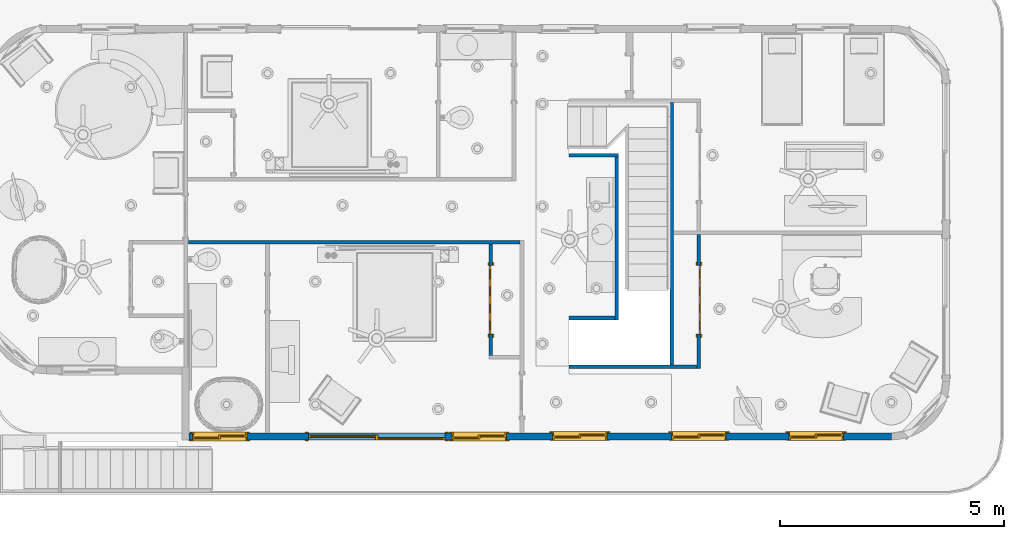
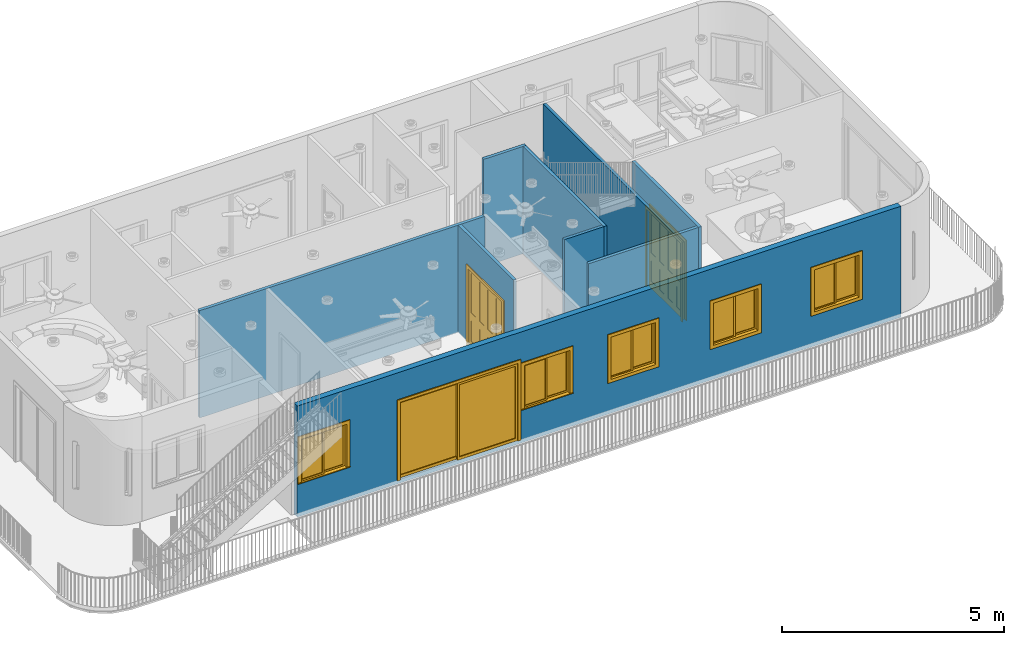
# One storey, part 4 of 28: 9 walls, 5 windows, 3 doors, 8 openings.
"""IFC2X3 building model written with IfcOpenShell, lengths in feet."""

from ifc_helpers import new_model, entity, si_unit, converted_unit, derived_unit, direction, frame, frame_2d, origin, origin_2d_with_axis, place, context, subcontext, project, spatial, polyline, rectangle, outline, extrude, source, transform, mapped, material, material_list, layer, layer_set, layer_usage, type_object, type_shapes, element, fill, save


model = new_model("IFC2X3")

# Units and contexts
model_context = context("Model", 3, precision=0.0001, world=origin(), true_north=direction((6.12303176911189e-17, 1.0)))
body_context = subcontext(model_context, "Body", "Model", "MODEL_VIEW")
ifc_project = project(units=[converted_unit("LENGTHUNIT", "FOOT", entity("IfcRatioMeasure", 0.3048), si_unit("LENGTHUNIT", "METRE"), dimensions=[1, 0, 0, 0, 0, 0, 0]), converted_unit("AREAUNIT", "SQUARE FOOT", entity("IfcRatioMeasure", 0.09290304), si_unit("AREAUNIT", "SQUARE_METRE"), dimensions=[2, 0, 0, 0, 0, 0, 0]), converted_unit("VOLUMEUNIT", "CUBIC FOOT", entity("IfcRatioMeasure", 0.028316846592), si_unit("VOLUMEUNIT", "CUBIC_METRE"), dimensions=[3, 0, 0, 0, 0, 0, 0]), converted_unit("PLANEANGLEUNIT", "DEGREE", entity("IfcRatioMeasure", 0.0174532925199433), si_unit("PLANEANGLEUNIT", "RADIAN"), dimensions=[0, 0, 0, 0, 0, 0, 0]), si_unit("MASSUNIT", "GRAM", prefix="KILO"), derived_unit("MASSDENSITYUNIT", [(si_unit("MASSUNIT", "GRAM", prefix="KILO"), 1), (si_unit("LENGTHUNIT", "METRE"), -3)]), si_unit("TIMEUNIT", "SECOND"), si_unit("FREQUENCYUNIT", "HERTZ"), si_unit("THERMODYNAMICTEMPERATUREUNIT", "DEGREE_CELSIUS"), derived_unit("THERMALTRANSMITTANCEUNIT", [(si_unit("MASSUNIT", "GRAM", prefix="KILO"), 1), (si_unit("THERMODYNAMICTEMPERATUREUNIT", "KELVIN"), -1), (si_unit("TIMEUNIT", "SECOND"), -3)]), derived_unit("VOLUMETRICFLOWRATEUNIT", [(si_unit("LENGTHUNIT", "METRE"), 3), (si_unit("TIMEUNIT", "SECOND"), -1)]), si_unit("ELECTRICCURRENTUNIT", "AMPERE"), si_unit("ELECTRICVOLTAGEUNIT", "VOLT"), si_unit("POWERUNIT", "WATT"), si_unit("FORCEUNIT", "NEWTON"), si_unit("ILLUMINANCEUNIT", "LUX"), si_unit("LUMINOUSFLUXUNIT", "LUMEN"), si_unit("LUMINOUSINTENSITYUNIT", "CANDELA"), derived_unit("USERDEFINED", [(si_unit("MASSUNIT", "GRAM", prefix="KILO"), -1), (si_unit("LENGTHUNIT", "METRE"), -2), (si_unit("TIMEUNIT", "SECOND"), 3), (si_unit("LUMINOUSFLUXUNIT", "LUMEN"), 1)]), derived_unit("LINEARVELOCITYUNIT", [(si_unit("LENGTHUNIT", "METRE"), 1), (si_unit("TIMEUNIT", "SECOND"), -1)]), si_unit("PRESSUREUNIT", "PASCAL"), derived_unit("USERDEFINED", [(si_unit("LENGTHUNIT", "METRE"), -2), (si_unit("MASSUNIT", "GRAM", prefix="KILO"), 1), (si_unit("TIMEUNIT", "SECOND"), -2)])], contexts=[model_context])

# Site, building, storey
site_placement = place(None, origin())
site = spatial("IfcSite", under=ifc_project, at=site_placement, Name="表面", CompositionType="ELEMENT")
building_placement = place(site_placement, origin())
building = spatial("IfcBuilding", under=site, at=building_placement, CompositionType="ELEMENT")
storey_placement = place(building_placement, frame((0.0, 0.0, 10.0)))
storey = spatial("IfcBuildingStorey", under=building, at=storey_placement, Name="Level 2", CompositionType="ELEMENT", Elevation=9.99999999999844)

# Wall, openings, door, windows
ifc_material_1 = material(Name="Paint")
ifc_layer_1 = layer(ifc_material_1, 0.333333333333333)
ifc_material_2 = material(Name="Paints and Coatings")
ifc_layer_2 = layer(ifc_material_2, 0.166666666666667)
ifc_layer_set_1 = layer_set([ifc_layer_1, ifc_layer_2], Name="基本墙:Generic - 4\" Brick")
ifc_layer_usage_1 = layer_usage(ifc_layer_set_1, "AXIS2", "NEGATIVE", 0.25)
wall_type_1 = type_object("IfcWallType", Name="基本墙:Generic - 4\" Brick", PredefinedType="STANDARD", material=ifc_layer_set_1)
wall_1_placement = place(storey_placement, frame((31.7984202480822, -13.1509396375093, 0.0), z_axis=(0.0, 0.0, 1.0), x_axis=(-1.0, 0.0, 0.0)))
wall_1 = element("IfcWallStandardCase", 1, at=wall_1_placement, inside=storey, type_object=wall_type_1, material=ifc_layer_usage_1, Name="基本墙:Generic - 4\" Brick", ObjectType="基本墙:Generic - 4\" Brick:257", context=body_context, shape_type="SweptSolid", body=[
    extrude(rectangle(XDim=51.4166666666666, YDim=0.5, at=frame_2d((25.7083333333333, -6.38378239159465e-16), x_axis=(-1.0, 0.0))), origin(), (0.0, 0.0, 1.0), 9.99999999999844),
])
opening_1_placement = place(wall_1_placement, frame((32.6666666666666, -0.250000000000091, 0.333333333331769)))
opening_1 = element("IfcOpeningElement", 2, at=opening_1_placement, cuts=wall_1, Name="Sliding-2 panel:72\" x 84\":1", ObjectType="Opening", context=body_context, shape_type="SweptSolid", body=[
    extrude(rectangle(XDim=7.0, YDim=10.0, at=frame_2d((3.5, 5.0), x_axis=(-1.0, 0.0))), frame((0.0, 0.0, 0.0), z_axis=(0.0, 1.0, 0.0), x_axis=(0.0, 0.0, 1.0)), (0.0, 0.0, 1.0), 0.5),
])
opening_2_placement = place(wall_1_placement, frame((7.5, 0.249999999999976, 3.0)))
opening_2 = element("IfcOpeningElement", 3, at=opening_2_placement, cuts=wall_1, Name="Slider with Trim:48\" x 48\":1", ObjectType="Opening", context=body_context, shape_type="SweptSolid", body=[
    extrude(rectangle(XDim=3.99999999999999, YDim=3.99999999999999, at=frame_2d((2.0, 2.0), x_axis=(-1.0, 0.0))), frame((0.0, 0.0, 0.0), z_axis=(0.0, -1.0, 0.0), x_axis=(0.0, 0.0, 1.0)), (0.0, 0.0, 1.0), 0.5),
])
opening_3_placement = place(wall_1_placement, frame((16.0833333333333, 0.249999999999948, 3.0)))
opening_3 = element("IfcOpeningElement", 4, at=opening_3_placement, cuts=wall_1, Name="Slider with Trim:48\" x 48\":1", ObjectType="Opening", context=body_context, shape_type="SweptSolid", body=[
    extrude(rectangle(XDim=3.99999999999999, YDim=3.99999999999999, at=frame_2d((2.0, 2.0), x_axis=(-1.0, 0.0))), frame((0.0, 0.0, 0.0), z_axis=(0.0, -1.0, 0.0), x_axis=(0.0, 0.0, 1.0)), (0.0, 0.0, 1.0), 0.5),
])
opening_4_placement = place(wall_1_placement, frame((28.1666666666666, -0.250000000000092, 3.0)))
opening_4 = element("IfcOpeningElement", 5, at=opening_4_placement, cuts=wall_1, Name="Slider with Trim:48\" x 48\":1", ObjectType="Opening", context=body_context, shape_type="SweptSolid", body=[
    extrude(rectangle(XDim=3.99999999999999, YDim=3.99999999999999, at=frame_2d((2.0, 2.0), x_axis=(-1.0, 0.0))), frame((0.0, 0.0, 0.0), z_axis=(0.0, 1.0, 0.0), x_axis=(0.0, 0.0, 1.0)), (0.0, 0.0, 1.0), 0.5),
])
opening_5_placement = place(wall_1_placement, frame((47.1666666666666, -0.250000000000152, 3.0)))
opening_5 = element("IfcOpeningElement", 6, at=opening_5_placement, cuts=wall_1, Name="Slider with Trim:48\" x 48\":1", ObjectType="Opening", context=body_context, shape_type="SweptSolid", body=[
    extrude(rectangle(XDim=3.99999999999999, YDim=3.99999999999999, at=frame_2d((2.0, 2.0), x_axis=(-1.0, 0.0))), frame((0.0, 0.0, 0.0), z_axis=(0.0, 1.0, 0.0), x_axis=(0.0, 0.0, 1.0)), (0.0, 0.0, 1.0), 0.5),
])
opening_6_placement = place(wall_1_placement, frame((24.8072916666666, 0.24999999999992, 3.0)))
opening_6 = element("IfcOpeningElement", 7, at=opening_6_placement, cuts=wall_1, Name="Slider with Trim:48\" x 48\":1", ObjectType="Opening", context=body_context, shape_type="SweptSolid", body=[
    extrude(rectangle(XDim=3.99999999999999, YDim=3.99999999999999, at=frame_2d((2.0, 2.0), x_axis=(-1.0, 0.0))), frame((0.0, 0.0, 0.0), z_axis=(0.0, -1.0, 0.0), x_axis=(0.0, 0.0, 1.0)), (0.0, 0.0, 1.0), 0.5),
])
ifc_material_3 = material(Name="Glass")
ifc_material_4 = material(Name="Door - Panel")
ifc_material_5 = material(Name="Door - Frame")
ifc_material_list_1 = material_list([ifc_material_3, ifc_material_4, ifc_material_5])
ifc_material_list_2 = material_list([ifc_material_3, ifc_material_4, ifc_material_5])
door_style_1 = type_object("IfcDoorStyle", Name="72\" x 84\"", ConstructionType="NOTDEFINED", OperationType="NOTDEFINED", ParameterTakesPrecedence=False, Sizeable=False, material=ifc_material_list_2)
shared_shape_1 = source(origin(), body_context, "Body", "SweptSolid", [
    extrude(rectangle(XDim=0.0208333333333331, YDim=4.74999999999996, at=frame_2d((5.55111512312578e-17, 0.0), x_axis=(1.0, 0.0))), frame((7.45833333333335, 0.250000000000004, 0.249999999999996), z_axis=(0.0, 0.0, 1.0), x_axis=(0.0, -1.0, 0.0)), (0.0, 0.0, 1.0), 6.5),
    extrude(outline(polyline([(-2.54166666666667, -3.5), (2.54166666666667, -3.5), (2.54166666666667, 3.5), (-2.54166666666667, 3.5), (-2.54166666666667, -3.5)]), holes=[polyline([(-2.375, -3.25), (-2.375, 3.25), (2.375, 3.25), (2.375, -3.25), (-2.375, -3.25)])]), frame((7.45833333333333, 0.166666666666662, 3.5), z_axis=(0.0, 1.0, 0.0), x_axis=(1.0, 0.0, 0.0)), (0.0, 0.0, 1.0), 0.166666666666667),
    extrude(rectangle(XDim=0.0208333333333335, YDim=4.75000000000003, at=frame_2d((0.0, -4.44089209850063e-16), x_axis=(1.0, 0.0))), frame((2.54166666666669, 0.416666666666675, 0.249999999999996), z_axis=(0.0, 0.0, 1.0), x_axis=(0.0, -1.0, 0.0)), (0.0, 0.0, 1.0), 6.5),
    extrude(outline(polyline([(-3.5, -2.54166666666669), (3.5, -2.54166666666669), (3.5, 2.54166666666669), (-3.5, 2.54166666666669), (-3.5, -2.54166666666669)]), holes=[polyline([(-3.25, -2.37500000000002), (-3.25, 2.37500000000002), (3.25, 2.37500000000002), (3.25, -2.37500000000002), (-3.25, -2.37500000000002)])]), frame((2.54166666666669, 0.333333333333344, 3.5), z_axis=(0.0, 1.0, 0.0), x_axis=(0.0, 0.0, -1.0)), (0.0, 0.0, 1.0), 0.166666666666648),
    extrude(outline(polyline([(-3.5625, -5.25), (3.6875, -5.25), (3.6875, 5.25), (-3.5625, 5.25), (-3.5625, 5.0), (3.4375, 5.0), (3.4375, -5.0), (-3.5625, -5.0), (-3.5625, -5.25)])), frame((5.0, -0.0833333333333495, 3.5625), z_axis=(0.0, 1.0, 0.0), x_axis=(0.0, 0.0, 1.0)), (0.0, 0.0, 1.0), 0.0833333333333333),
    extrude(outline(polyline([(-5.24999999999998, -3.56250000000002), (-5.0, -3.56250000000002), (-5.0, 3.43749999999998), (5.0, 3.43750000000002), (5.0, -3.56249999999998), (5.25000000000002, -3.56249999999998), (5.24999999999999, 3.68750000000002), (-5.25000000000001, 3.68749999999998), (-5.24999999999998, -3.56250000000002)])), frame((5.0, 0.499999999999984, 3.5625), z_axis=(0.0, 1.0, 0.0), x_axis=(-1.0, 0.0, 0.0)), (0.0, 0.0, 1.0), 0.0833333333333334),
])
type_shapes(door_style_1, [shared_shape_1])
door_1_placement = place(opening_1_placement, origin())
door_1 = element("IfcDoor", 8, at=door_1_placement, inside=storey, type_object=door_style_1, material=ifc_material_list_1, Name="Sliding-2 panel:72\" x 84\"", ObjectType="72\" x 84\"", OverallHeight=7.0, OverallWidth=10.0, context=body_context, shape_type="MappedRepresentation", body=[
    mapped(shared_shape_1, transform((0.0, 0.0, 0.0), scale=1.0)),
])
fill(opening_1, door_1)
ifc_material_6 = material(Name="Sash")
ifc_material_7 = material(Name="Trim")
ifc_material_list_3 = material_list([ifc_material_3, ifc_material_6, ifc_material_7])
ifc_material_list_4 = material_list([ifc_material_3, ifc_material_6, ifc_material_7])
window_style = type_object("IfcWindowStyle", Name="48\" x 48\"", ConstructionType="NOTDEFINED", OperationType="NOTDEFINED", ParameterTakesPrecedence=False, Sizeable=False, material=ifc_material_list_4)
shared_shape_2 = source(origin(), body_context, "Body", "SweptSolid", [
    extrude(rectangle(XDim=0.0416666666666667, YDim=1.71875000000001, at=origin_2d_with_axis()), frame((1.06770833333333, 0.21875, 0.208333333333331), z_axis=(0.0, 0.0, 1.0), x_axis=(0.0, -1.0, 0.0)), (0.0, 0.0, 1.0), 3.58333333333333),
    extrude(outline(polyline([(-1.00520833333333, -1.9375), (1.00520833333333, -1.9375), (1.00520833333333, 1.9375), (-1.00520833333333, 1.9375), (-1.00520833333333, -1.9375)]), holes=[polyline([(-0.859374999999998, -1.79166666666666), (-0.859374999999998, 1.79166666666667), (0.859374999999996, 1.79166666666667), (0.859374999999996, -1.79166666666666), (-0.859374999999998, -1.79166666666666)])]), frame((1.06770833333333, 0.145833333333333, 2.0), z_axis=(0.0, 1.0, 0.0), x_axis=(1.0, 0.0, 0.0)), (0.0, 0.0, 1.0), 0.145833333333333),
    extrude(rectangle(XDim=0.104166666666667, YDim=4.45833333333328, at=frame_2d((-2.77555756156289e-17, 0.0), x_axis=(1.0, 0.0))), frame((2.0, 0.552083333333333, 0.0), z_axis=(0.0, 0.0, 1.0), x_axis=(0.0, -1.0, 0.0)), (0.0, 0.0, 1.0), 0.0624999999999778),
    extrude(outline(polyline([(-1.86458333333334, 1.9375), (2.01041666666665, 1.9375), (2.01041666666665, 2.22916666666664), (-2.15624999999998, 2.22916666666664), (-2.15624999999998, -2.22916666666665), (2.01041666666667, -2.22916666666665), (2.01041666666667, -1.93749999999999), (-1.86458333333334, -1.93749999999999), (-1.86458333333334, 1.9375)])), frame((2.0, 0.5, 2.07291666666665), z_axis=(0.0, 1.0, 0.0), x_axis=(0.0, 0.0, -1.0)), (0.0, 0.0, 1.0), 0.0625),
    extrude(outline(polyline([(-2.18749999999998, -2.18749999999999), (2.18749999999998, -2.18749999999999), (2.18749999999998, 2.18749999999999), (-2.18749999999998, 2.18749999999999), (-2.18749999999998, -2.18749999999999)]), holes=[polyline([(-1.89583333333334, -1.89583333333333), (-1.89583333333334, 1.89583333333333), (1.89583333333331, 1.89583333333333), (1.89583333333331, -1.89583333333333), (-1.89583333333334, -1.89583333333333)])]), frame((2.0, -0.0625, 2.0), z_axis=(0.0, 1.0, 0.0), x_axis=(0.0, 0.0, -1.0)), (0.0, 0.0, 1.0), 0.0625),
    extrude(rectangle(XDim=0.0416666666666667, YDim=1.71874999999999, at=frame_2d((1.38777878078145e-17, 0.0), x_axis=(1.0, 0.0))), frame((2.93229166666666, 0.364583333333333, 0.208333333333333), z_axis=(0.0, 0.0, 1.0), x_axis=(0.0, 1.0, 0.0)), (0.0, 0.0, 1.0), 3.58333333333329),
    extrude(outline(polyline([(-1.00520833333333, -1.93749999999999), (1.00520833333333, -1.93749999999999), (1.00520833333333, 1.93749999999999), (-1.00520833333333, 1.93749999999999), (-1.00520833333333, -1.93749999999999)]), holes=[polyline([(-0.859374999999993, -1.79166666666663), (-0.859374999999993, 1.79166666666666), (0.859374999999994, 1.79166666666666), (0.859374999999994, -1.79166666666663), (-0.859374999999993, -1.79166666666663)])]), frame((2.93229166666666, 0.291666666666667, 2.0), z_axis=(0.0, 1.0, 0.0), x_axis=(1.0, 0.0, 0.0)), (0.0, 0.0, 1.0), 0.145833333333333),
    extrude(outline(polyline([(-2.0, -2.0), (2.0, -2.0), (2.0, 2.0), (-2.0, 2.0), (-2.0, -2.0)]), holes=[polyline([(-1.89583333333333, -1.89583333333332), (-1.89583333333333, 1.89583333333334), (1.89583333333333, 1.89583333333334), (1.89583333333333, -1.89583333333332), (-1.89583333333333, -1.89583333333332)])]), frame((2.0, 0.0, 2.0), z_axis=(0.0, 1.0, 0.0), x_axis=(1.0, 0.0, 0.0)), (0.0, 0.0, 1.0), 0.145833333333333),
    extrude(outline(polyline([(-2.0, -2.0), (2.0, -2.0), (2.0, 2.0), (-2.0, 2.0), (-2.0, -2.0)]), holes=[polyline([(-1.9375, -1.93749999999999), (-1.9375, 1.9375), (1.9375, 1.9375), (1.9375, -1.93749999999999), (-1.9375, -1.93749999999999)])]), frame((2.0, 0.145833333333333, 2.0), z_axis=(0.0, 1.0, 0.0), x_axis=(0.0, 0.0, -1.0)), (0.0, 0.0, 1.0), 0.354166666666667),
])
type_shapes(window_style, [shared_shape_2])
window_1_placement = place(opening_2_placement, frame((0.0, 0.0, 0.0), z_axis=(0.0, 0.0, 1.0), x_axis=(-1.0, 0.0, 0.0)))
window_1 = element("IfcWindow", 9, at=window_1_placement, inside=storey, type_object=window_style, material=ifc_material_list_3, Name="Slider with Trim:48\" x 48\"", ObjectType="48\" x 48\"", OverallHeight=3.99999999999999, OverallWidth=3.99999999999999, context=body_context, shape_type="MappedRepresentation", body=[
    mapped(shared_shape_2, transform((0.0, 0.0, 0.0), scale=1.0)),
])
fill(opening_2, window_1)
ifc_material_list_5 = material_list([ifc_material_3, ifc_material_6, ifc_material_7])
window_2_placement = place(opening_3_placement, frame((0.0, 0.0, 0.0), z_axis=(0.0, 0.0, 1.0), x_axis=(-1.0, 0.0, 0.0)))
window_2 = element("IfcWindow", 10, at=window_2_placement, inside=storey, type_object=window_style, material=ifc_material_list_5, Name="Slider with Trim:48\" x 48\"", ObjectType="48\" x 48\"", OverallHeight=3.99999999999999, OverallWidth=3.99999999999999, context=body_context, shape_type="MappedRepresentation", body=[
    mapped(shared_shape_2, transform((0.0, 0.0, 0.0), scale=1.0)),
])
fill(opening_3, window_2)
ifc_material_list_6 = material_list([ifc_material_3, ifc_material_6, ifc_material_7])
window_3_placement = place(opening_4_placement, origin())
window_3 = element("IfcWindow", 11, at=window_3_placement, inside=storey, type_object=window_style, material=ifc_material_list_6, Name="Slider with Trim:48\" x 48\"", ObjectType="48\" x 48\"", OverallHeight=3.99999999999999, OverallWidth=3.99999999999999, context=body_context, shape_type="MappedRepresentation", body=[
    mapped(shared_shape_2, transform((0.0, 0.0, 0.0), scale=1.0)),
])
fill(opening_4, window_3)
ifc_material_list_7 = material_list([ifc_material_3, ifc_material_6, ifc_material_7])
window_4_placement = place(opening_5_placement, origin())
window_4 = element("IfcWindow", 12, at=window_4_placement, inside=storey, type_object=window_style, material=ifc_material_list_7, Name="Slider with Trim:48\" x 48\"", ObjectType="48\" x 48\"", OverallHeight=3.99999999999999, OverallWidth=3.99999999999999, context=body_context, shape_type="MappedRepresentation", body=[
    mapped(shared_shape_2, transform((0.0, 0.0, 0.0), scale=1.0)),
])
fill(opening_5, window_4)
ifc_material_list_8 = material_list([ifc_material_3, ifc_material_6, ifc_material_7])
window_5_placement = place(opening_6_placement, frame((0.0, 0.0, 0.0), z_axis=(0.0, 0.0, 1.0), x_axis=(-1.0, 0.0, 0.0)))
window_5 = element("IfcWindow", 13, at=window_5_placement, inside=storey, type_object=window_style, material=ifc_material_list_8, Name="Slider with Trim:48\" x 48\"", ObjectType="48\" x 48\"", OverallHeight=3.99999999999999, OverallWidth=3.99999999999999, context=body_context, shape_type="MappedRepresentation", body=[
    mapped(shared_shape_2, transform((0.0, 0.0, 0.0), scale=1.0)),
])
fill(opening_6, window_5)

# Wall
ifc_material_8 = material(Name="Gypsum Wall Board")
ifc_layer_3 = layer(ifc_material_8, 0.0416666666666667)
ifc_layer_4 = layer(ifc_material_8, 0.0208333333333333)
ifc_material_9 = material(Name="Metal - Stud Layer")
ifc_layer_5 = layer(ifc_material_9, 0.135416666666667)
ifc_layer_6 = layer(ifc_material_8, 0.0208333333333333)
ifc_layer_7 = layer(ifc_material_8, 0.0416666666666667)
ifc_layer_set_2 = layer_set([ifc_layer_3, ifc_layer_4, ifc_layer_5, ifc_layer_6, ifc_layer_7], Name="基本墙:Interior - 3 1/8\" Partition (1-hr)")
ifc_layer_usage_2 = layer_usage(ifc_layer_set_2, "AXIS2", "NEGATIVE", 0.130208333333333)
wall_type_2 = type_object("IfcWallType", Name="基本墙:Interior - 3 1/8\" Partition (1-hr)", PredefinedType="STANDARD", material=ifc_layer_set_2)
wall_2_placement = place(storey_placement, frame((-19.6547047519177, 1.0521853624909, 0.250000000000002)))
element("IfcWallStandardCase", 14, at=wall_2_placement, inside=storey, type_object=wall_type_2, material=ifc_layer_usage_2, Name="基本墙:Interior - 3 1/8\" Partition (1-hr)", ObjectType="基本墙:Interior - 3 1/8\" Partition (1-hr):258", context=body_context, shape_type="SweptSolid", body=[
    extrude(rectangle(XDim=24.2864583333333, YDim=0.260416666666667, at=frame_2d((12.1432291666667, -8.32667268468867e-17), x_axis=(-1.0, 0.0))), origin(), (0.0, 0.0, 1.0), 9.66666666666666),
])

# Wall, opening, door
ifc_layer_usage_3 = layer_usage(ifc_layer_set_2, "AXIS2", "NEGATIVE", 0.130208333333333)
wall_3_placement = place(storey_placement, frame((2.49112858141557, -7.2342729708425, 0.250000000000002), z_axis=(0.0, 0.0, 1.0), x_axis=(0.0, 1.0, 0.0)))
wall_3 = element("IfcWallStandardCase", 15, at=wall_3_placement, inside=storey, type_object=wall_type_2, material=ifc_layer_usage_3, Name="基本墙:Interior - 3 1/8\" Partition (1-hr)", ObjectType="基本墙:Interior - 3 1/8\" Partition (1-hr):258", context=body_context, shape_type="SweptSolid", body=[
    extrude(rectangle(XDim=8.15625, YDim=0.260416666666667, at=frame_2d((4.078125, -2.08166817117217e-16), x_axis=(-1.0, 0.0))), origin(), (0.0, 0.0, 1.0), 9.66666666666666),
])
opening_7_placement = place(wall_3_placement, frame((1.578125, -0.130208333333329, -0.250000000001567)))
opening_7 = element("IfcOpeningElement", 16, at=opening_7_placement, cuts=wall_3, Name="Bifold-4 Panel:60\" x 84\":1", ObjectType="Opening", context=body_context, shape_type="SweptSolid", body=[
    extrude(rectangle(XDim=7.0, YDim=5.0, at=frame_2d((3.5, 2.5), x_axis=(1.0, 0.0))), frame((0.0, 0.0, 0.0), z_axis=(0.0, 1.0, 0.0), x_axis=(0.0, 0.0, 1.0)), (0.0, 0.0, 1.0), 0.260416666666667),
])
ifc_material_list_9 = material_list([ifc_material_4, ifc_material_5])
ifc_material_list_10 = material_list([ifc_material_4, ifc_material_5])
door_style_2 = type_object("IfcDoorStyle", Name="60\" x 84\"", ConstructionType="NOTDEFINED", OperationType="NOTDEFINED", ParameterTakesPrecedence=False, Sizeable=False, material=ifc_material_list_10)
shared_shape_3 = source(origin(), body_context, "Body", "SweptSolid", [
    extrude(rectangle(XDim=0.0416666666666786, YDim=0.666666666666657, at=frame_2d((6.93889390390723e-18, 0.0), x_axis=(1.0, 0.0))), frame((0.624999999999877, 0.197916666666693, 3.16666666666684), z_axis=(0.0, 0.0, 1.0), x_axis=(0.0, -1.0, 0.0)), (0.0, 0.0, 1.0), 3.56250000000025),
    extrude(rectangle(XDim=0.0416666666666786, YDim=0.666666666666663, at=frame_2d((-6.93889390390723e-18, 0.0), x_axis=(1.0, 0.0))), frame((4.37499999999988, 0.19791666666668, 3.16666666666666), z_axis=(0.0, 0.0, 1.0), x_axis=(0.0, -1.0, 0.0)), (0.0, 0.0, 1.0), 3.56250000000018),
    extrude(rectangle(XDim=0.0416666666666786, YDim=0.666666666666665, at=frame_2d((-6.93889390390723e-18, -1.11022302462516e-16), x_axis=(1.0, 0.0))), frame((4.37499999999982, 0.19791666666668, 0.604166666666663), z_axis=(0.0, 0.0, 1.0), x_axis=(0.0, -1.0, 0.0)), (0.0, 0.0, 1.0), 1.85416666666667),
    extrude(rectangle(XDim=0.0416666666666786, YDim=0.666666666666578, at=frame_2d((-6.93889390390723e-18, 0.0), x_axis=(1.0, 0.0))), frame((3.12499999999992, 0.197916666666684, 3.16666666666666), z_axis=(0.0, 0.0, 1.0), x_axis=(0.0, -1.0, 0.0)), (0.0, 0.0, 1.0), 3.56250000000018),
    extrude(rectangle(XDim=0.0416666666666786, YDim=0.66666666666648, at=frame_2d((-6.93889390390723e-18, 0.0), x_axis=(1.0, 0.0))), frame((3.12499999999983, 0.197916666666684, 0.604166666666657), z_axis=(0.0, 0.0, 1.0), x_axis=(0.0, -1.0, 0.0)), (0.0, 0.0, 1.0), 1.85416666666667),
    extrude(rectangle(XDim=0.0416666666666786, YDim=0.666666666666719, at=frame_2d((-6.93889390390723e-18, 0.0), x_axis=(1.0, 0.0))), frame((1.87499999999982, 0.197916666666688, 0.604166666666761), z_axis=(0.0, 0.0, 1.0), x_axis=(0.0, -1.0, 0.0)), (0.0, 0.0, 1.0), 1.85416666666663),
    extrude(rectangle(XDim=0.0416666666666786, YDim=0.666666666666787, at=frame_2d((-6.93889390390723e-18, 0.0), x_axis=(1.0, 0.0))), frame((1.87499999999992, 0.197916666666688, 3.16666666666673), z_axis=(0.0, 0.0, 1.0), x_axis=(0.0, -1.0, 0.0)), (0.0, 0.0, 1.0), 3.56250000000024),
    extrude(rectangle(XDim=0.0416666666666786, YDim=0.666666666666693, at=frame_2d((6.93889390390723e-18, 0.0), x_axis=(1.0, 0.0))), frame((0.624999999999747, 0.197916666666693, 0.604166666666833), z_axis=(0.0, 0.0, 1.0), x_axis=(0.0, -1.0, 0.0)), (0.0, 0.0, 1.0), 1.85416666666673),
    extrude(outline(polyline([(-2.74999999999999, -3.5625), (-2.50000000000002, -3.5625), (-2.50000000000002, 3.4375), (2.5, 3.4375), (2.5, -3.5625), (2.75000000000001, -3.5625), (2.75000000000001, 3.6875), (-2.74999999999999, 3.6875), (-2.74999999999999, -3.5625)])), frame((2.50000000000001, -0.0833333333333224, 3.5625), z_axis=(0.0, 1.0, 0.0), x_axis=(-1.0, 0.0, 0.0)), (0.0, 0.0, 1.0), 0.0833333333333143),
    extrude(outline(polyline([(-2.75000000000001, -3.5625), (-2.49999999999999, -3.5625), (-2.49999999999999, 3.4375), (2.5, 3.4375), (2.5, -3.5625), (2.75, -3.5625), (2.75, 3.6875), (-2.75000000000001, 3.6875), (-2.75000000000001, -3.5625)])), frame((2.50000000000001, 0.260416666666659, 3.5625), z_axis=(0.0, 1.0, 0.0), x_axis=(-1.0, 0.0, 0.0)), (0.0, 0.0, 1.0), 0.0833333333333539),
    extrude(outline(polyline([(-3.5, -0.625), (3.5, -0.625), (3.5, 0.625), (-3.5, 0.625), (-3.5, -0.625)]), holes=[polyline([(3.22916666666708, -0.333333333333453), (-0.333333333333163, -0.333333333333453), (-0.333333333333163, 0.333333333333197), (3.22916666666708, 0.333333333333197), (3.22916666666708, -0.333333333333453)]), polyline([(-1.04166666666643, -0.333333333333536), (-2.89583333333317, -0.333333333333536), (-2.89583333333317, 0.333333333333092), (-1.04166666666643, 0.333333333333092), (-1.04166666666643, -0.333333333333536)])]), frame((0.625000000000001, 0.13541666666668, 3.5), z_axis=(0.0, 1.0, 0.0), x_axis=(0.0, 0.0, 1.0)), (0.0, 0.0, 1.0), 0.124999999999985),
    extrude(outline(polyline([(-3.5, -0.624999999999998), (3.5, -0.624999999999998), (3.5, 0.624999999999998), (-3.5, 0.624999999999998), (-3.5, -0.624999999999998)]), holes=[polyline([(3.22916666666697, -0.333333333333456), (-0.333333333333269, -0.333333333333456), (-0.333333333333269, 0.333333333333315), (3.22916666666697, 0.333333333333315), (3.22916666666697, -0.333333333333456)]), polyline([(-1.04166666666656, -0.333333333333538), (-2.89583333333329, -0.333333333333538), (-2.89583333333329, 0.333333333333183), (-1.04166666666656, 0.333333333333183), (-1.04166666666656, -0.333333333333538)])]), frame((1.875, 0.135416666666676, 3.5), z_axis=(0.0, 1.0, 0.0), x_axis=(0.0, 0.0, 1.0)), (0.0, 0.0, 1.0), 0.124999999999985),
    extrude(outline(polyline([(-3.5, -0.625000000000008), (3.5, -0.625000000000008), (3.5, 0.625000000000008), (-3.5, 0.625000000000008), (-3.5, -0.625000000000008)]), holes=[polyline([(3.22916666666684, -0.333333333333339), (-0.333333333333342, -0.333333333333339), (-0.333333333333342, 0.333333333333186), (3.22916666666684, 0.333333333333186), (3.22916666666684, -0.333333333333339)]), polyline([(-1.04166666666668, -0.333333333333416), (-2.89583333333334, -0.333333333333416), (-2.89583333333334, 0.333333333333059), (-1.04166666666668, 0.333333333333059), (-1.04166666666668, -0.333333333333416)])]), frame((3.12500000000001, 0.135416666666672, 3.5), z_axis=(0.0, 1.0, 0.0), x_axis=(0.0, 0.0, 1.0)), (0.0, 0.0, 1.0), 0.124999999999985),
    extrude(outline(polyline([(-3.5, -0.625000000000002), (3.5, -0.625000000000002), (3.5, 0.625000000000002), (-3.5, 0.625000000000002), (-3.5, -0.625000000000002)]), holes=[polyline([(3.22916666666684, -0.333333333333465), (-0.333333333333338, -0.333333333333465), (-0.333333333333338, 0.333333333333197), (3.22916666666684, 0.333333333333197), (3.22916666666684, -0.333333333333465)]), polyline([(-1.04166666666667, -0.333333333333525), (-2.89583333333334, -0.333333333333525), (-2.89583333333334, 0.333333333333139), (-1.04166666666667, 0.333333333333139), (-1.04166666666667, -0.333333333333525)])]), frame((4.37500000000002, 0.135416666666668, 3.5), z_axis=(0.0, 1.0, 0.0), x_axis=(0.0, 0.0, 1.0)), (0.0, 0.0, 1.0), 0.124999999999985),
])
type_shapes(door_style_2, [shared_shape_3])
door_2_placement = place(opening_7_placement, origin())
door_2 = element("IfcDoor", 17, at=door_2_placement, inside=storey, type_object=door_style_2, material=ifc_material_list_9, Name="Bifold-4 Panel:60\" x 84\"", ObjectType="60\" x 84\"", OverallHeight=7.0, OverallWidth=5.0, context=body_context, shape_type="MappedRepresentation", body=[
    mapped(shared_shape_3, transform((0.0, 0.0, 0.0), scale=1.0)),
])
fill(opening_7, door_2)

# Walls
ifc_layer_usage_4 = layer_usage(ifc_layer_set_2, "AXIS2", "NEGATIVE", 0.130208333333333)
wall_4_placement = place(storey_placement, frame((8.21508691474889, 7.43239369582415, 0.250000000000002)))
element("IfcWallStandardCase", 18, at=wall_4_placement, inside=storey, type_object=wall_type_2, material=ifc_layer_usage_4, Name="基本墙:Interior - 3 1/8\" Partition (1-hr)", ObjectType="基本墙:Interior - 3 1/8\" Partition (1-hr):258", context=body_context, shape_type="SweptSolid", body=[
    extrude(rectangle(XDim=3.63020833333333, YDim=0.260416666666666, at=frame_2d((1.81510416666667, 2.08166817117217e-16), x_axis=(-1.0, 0.0))), origin(), (0.0, 0.0, 1.0), 9.66666666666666),
])
ifc_layer_usage_5 = layer_usage(ifc_layer_set_2, "AXIS2", "NEGATIVE", 0.130208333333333)
wall_5_placement = place(storey_placement, frame((11.7150869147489, 7.3021853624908, 0.250000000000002), z_axis=(0.0, 0.0, 1.0), x_axis=(0.0, -1.0, 0.0)))
element("IfcWallStandardCase", 19, at=wall_5_placement, inside=storey, type_object=wall_type_2, material=ifc_layer_usage_5, Name="基本墙:Interior - 3 1/8\" Partition (1-hr)", ObjectType="基本墙:Interior - 3 1/8\" Partition (1-hr):258", context=body_context, shape_type="SweptSolid", body=[
    extrude(rectangle(XDim=11.9166666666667, YDim=0.260416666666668, at=frame_2d((5.95833333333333, 0.0), x_axis=(-1.0, 0.0))), origin(), (0.0, 0.0, 1.0), 9.66666666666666),
])
ifc_layer_usage_6 = layer_usage(ifc_layer_set_2, "AXIS2", "NEGATIVE", 0.130208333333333)
wall_6_placement = place(storey_placement, frame((11.5848785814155, -4.48427297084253, 0.250000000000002), z_axis=(0.0, 0.0, 1.0), x_axis=(-1.0, 0.0, 0.0)))
element("IfcWallStandardCase", 20, at=wall_6_placement, inside=storey, type_object=wall_type_2, material=ifc_layer_usage_6, Name="基本墙:Interior - 3 1/8\" Partition (1-hr)", ObjectType="基本墙:Interior - 3 1/8\" Partition (1-hr):258", context=body_context, shape_type="SweptSolid", body=[
    extrude(rectangle(XDim=3.36979166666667, YDim=0.260416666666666, at=frame_2d((1.68489583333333, -4.16333634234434e-16), x_axis=(-1.0, 0.0))), origin(), (0.0, 0.0, 1.0), 9.66666666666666),
])
ifc_layer_usage_7 = layer_usage(ifc_layer_set_2, "AXIS2", "NEGATIVE", 0.130208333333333)
wall_7_placement = place(storey_placement, frame((15.7150869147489, 11.3021853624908, 0.250000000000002), z_axis=(0.0, 0.0, 1.0), x_axis=(0.0, -1.0, 0.0)))
element("IfcWallStandardCase", 21, at=wall_7_placement, inside=storey, type_object=wall_type_2, material=ifc_layer_usage_7, Name="基本墙:Interior - 3 1/8\" Partition (1-hr)", ObjectType="基本墙:Interior - 3 1/8\" Partition (1-hr):258", context=body_context, shape_type="SweptSolid", body=[
    extrude(rectangle(XDim=19.2395833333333, YDim=0.260416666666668, at=frame_2d((9.61979166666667, -1.80411241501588e-16), x_axis=(-1.0, 0.0))), origin(), (0.0, 0.0, 1.0), 9.66666666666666),
])
ifc_layer_usage_8 = layer_usage(ifc_layer_set_2, "AXIS2", "NEGATIVE", 0.130208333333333)
wall_8_placement = place(storey_placement, frame((17.5848785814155, -8.06760630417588, 0.250000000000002), z_axis=(0.0, 0.0, 1.0), x_axis=(-1.0, 0.0, 0.0)))
element("IfcWallStandardCase", 22, at=wall_8_placement, inside=storey, type_object=wall_type_2, material=ifc_layer_usage_8, Name="基本墙:Interior - 3 1/8\" Partition (1-hr)", ObjectType="基本墙:Interior - 3 1/8\" Partition (1-hr):258", context=body_context, shape_type="SweptSolid", body=[
    extrude(rectangle(XDim=9.36979166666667, YDim=0.260416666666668, at=frame_2d((4.68489583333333, 1.56819002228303e-15), x_axis=(-1.0, 0.0))), origin(), (0.0, 0.0, 1.0), 9.66666666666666),
])

# Wall, opening, door
ifc_layer_usage_9 = layer_usage(ifc_layer_set_2, "AXIS2", "NEGATIVE", 0.130208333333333)
wall_9_placement = place(storey_placement, frame((17.7150869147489, 1.63551869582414, 0.250000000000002), z_axis=(0.0, 0.0, 1.0), x_axis=(0.0, -1.0, 0.0)))
wall_9 = element("IfcWallStandardCase", 23, at=wall_9_placement, inside=storey, type_object=wall_type_2, material=ifc_layer_usage_9, Name="基本墙:Interior - 3 1/8\" Partition (1-hr)", ObjectType="基本墙:Interior - 3 1/8\" Partition (1-hr):258", context=body_context, shape_type="SweptSolid", body=[
    extrude(rectangle(XDim=9.83333333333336, YDim=0.260416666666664, at=frame_2d((4.91666666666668, 0.0), x_axis=(-1.0, 0.0))), origin(), (0.0, 0.0, 1.0), 9.66666666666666),
])
opening_8_placement = place(wall_9_placement, frame((2.28645833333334, -0.13020833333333, -0.250000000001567)))
opening_8 = element("IfcOpeningElement", 24, at=opening_8_placement, cuts=wall_9, Name="Bifold-4 Panel:60\" x 84\":1", ObjectType="Opening", context=body_context, shape_type="SweptSolid", body=[
    extrude(rectangle(XDim=7.0, YDim=5.0, at=frame_2d((3.5, 2.5), x_axis=(1.0, 0.0))), frame((0.0, 0.0, 0.0), z_axis=(0.0, 1.0, 0.0), x_axis=(0.0, 0.0, 1.0)), (0.0, 0.0, 1.0), 0.260416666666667),
])
ifc_material_list_11 = material_list([ifc_material_4, ifc_material_5])
door_3_placement = place(opening_8_placement, origin())
door_3 = element("IfcDoor", 25, at=door_3_placement, inside=storey, type_object=door_style_2, material=ifc_material_list_11, Name="Bifold-4 Panel:60\" x 84\"", ObjectType="60\" x 84\"", OverallHeight=7.0, OverallWidth=5.0, context=body_context, shape_type="MappedRepresentation", body=[
    mapped(shared_shape_3, transform((0.0, 0.0, 0.0), scale=1.0)),
])
fill(opening_8, door_3)

save(model, "model.ifc")
